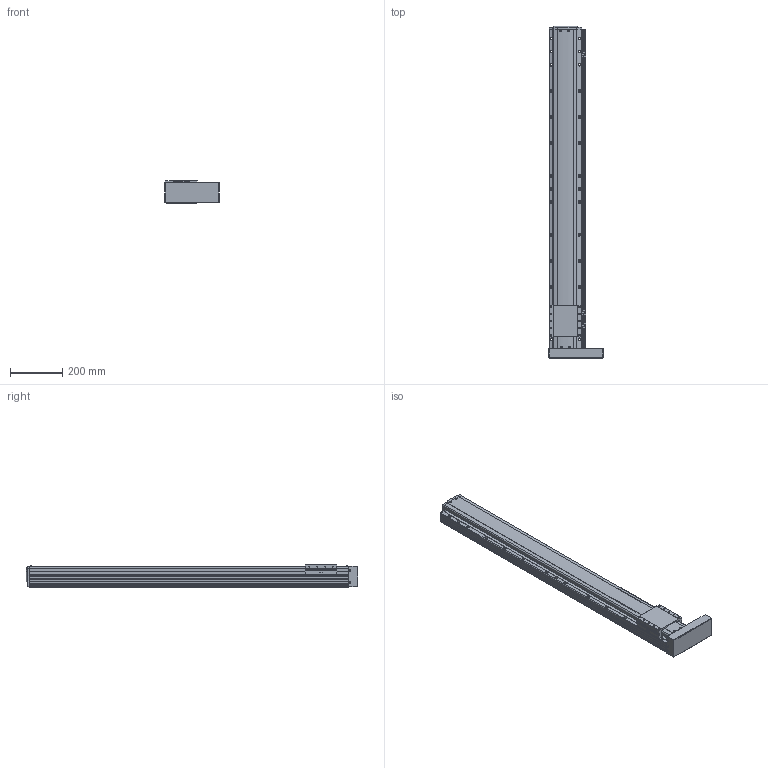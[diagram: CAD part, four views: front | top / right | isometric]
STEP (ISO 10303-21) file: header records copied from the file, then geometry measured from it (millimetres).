
FILE_DESCRIPTION(('STEP AP214'),'1');
FILE_NAME('Z:/Web/3D/PSA125/STP/PSA125-1000 (3D)/PSA125ㅁㅁ-1000PR+3SR.stp','2014-06-23T05:16:59',(' '),(' '),'Spatial InterOp 3D',' ',' ');
FILE_SCHEMA(('automotive_design'));
Length unit declared in the file: millimetre
Products named in the file (41): 스크루 : Round - M4.0 x 10.0; RRCV-PA120; SLIDE; BASE; FRCV-PA120-1(기준 뿔 제거); RR1500; 스크루 : Round - M4.0 x 6.0; 너트 : Square - M10.0 x 220.7419; BTCV - 60A; 스크루 : Round - M3.0 x 6.0; EE-SX674; SBK-SX674-352; M3.0 x 6.0; SRL-16x17-380L; SGD-PA95; 스크루 : Round - M3.0 x 8.0
Bounding box: 212.13 x 1268.6 x 86 mm (x, y, z)
Volume: 10991663.6 mm3; surface area: 991995.8 mm2
Topology: 41 solids, 41 shells, 2547 faces, 6793 edges, 4346 vertices
Faces by surface type: plane 1419, cylinder 748, cone 260, sphere 64, bspline 31, torus 25
Entity records: 101740 total; most frequent: CARTESIAN_POINT 16507, DIRECTION 13585, ORIENTED_EDGE 13278, EDGE_CURVE 6639, AXIS2_PLACEMENT_3D 4581, LINE 4423, VECTOR 4423, VERTEX_POINT 4346
